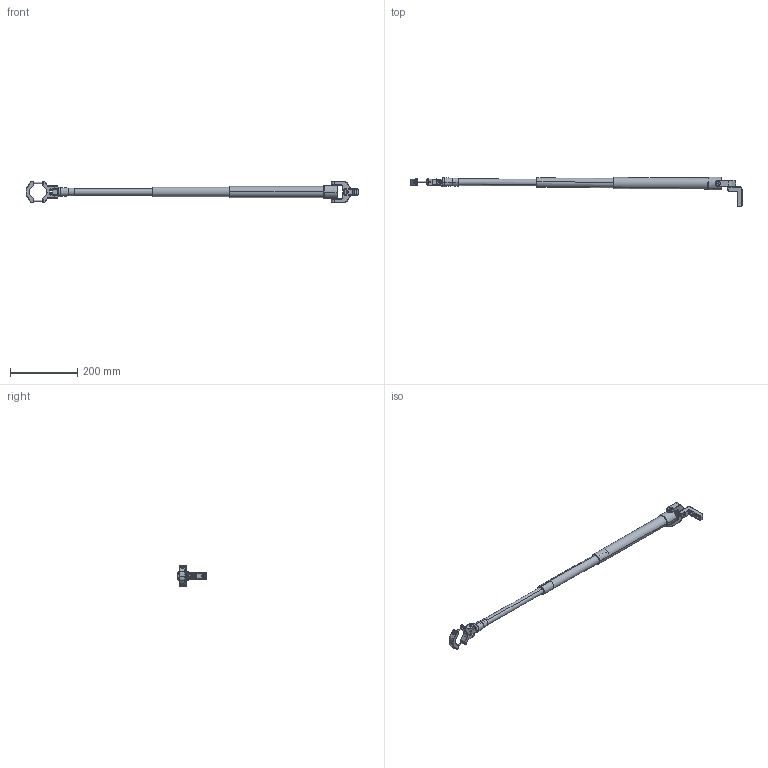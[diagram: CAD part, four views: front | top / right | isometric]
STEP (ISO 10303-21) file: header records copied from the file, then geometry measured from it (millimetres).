
FILE_DESCRIPTION (( 'STEP AP214' ), '1' );
FILE_NAME ('CAR501.STEP', '2014-06-11T07:29:37', ( 'davide' ), ( '' ), 'SwSTEP 2.0', 'SolidWorks 2014', '' );
FILE_SCHEMA (( 'AUTOMOTIVE_DESIGN' ));
Length unit declared in the file: millimetre
Products named in the file (1): CAR501
Bounding box: 986.08 x 88.65 x 63 mm (x, y, z)
Volume: 257097.9 mm3; surface area: 218141.2 mm2
Topology: 16 solids, 16 shells, 485 faces, 1078 edges, 651 vertices
Faces by surface type: plane 197, cylinder 161, cone 123, torus 4
Entity records: 19272 total; most frequent: CARTESIAN_POINT 2713, DIRECTION 2434, ORIENTED_EDGE 2152, EDGE_CURVE 1076, AXIS2_PLACEMENT_3D 906, VERTEX_POINT 651, LINE 622, VECTOR 622
